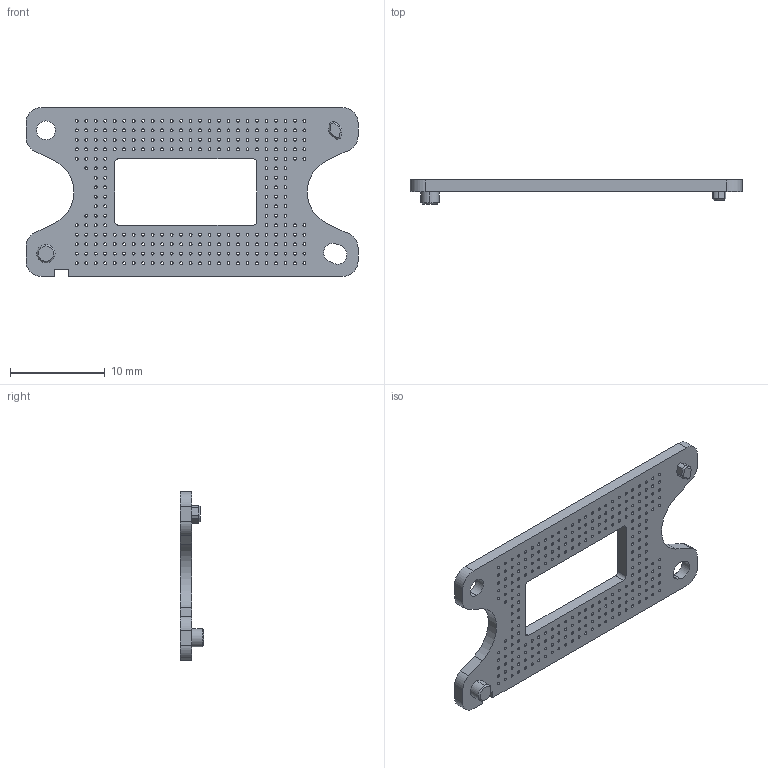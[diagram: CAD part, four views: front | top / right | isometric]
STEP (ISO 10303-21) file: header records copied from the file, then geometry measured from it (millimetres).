
FILE_DESCRIPTION (( 'STEP AP214' ), '1' );
FILE_NAME ('2515386.STEP', '2017-01-18T16:25:01', ( '' ), ( '' ), 'SwSTEP 2.0', 'SolidWorks 2013', '' );
FILE_SCHEMA (( 'AUTOMOTIVE_DESIGN' ));
Length unit declared in the file: millimetre
Products named in the file (1): 2515386
Bounding box: 35 x 2.52 x 17.8 mm (x, y, z)
Volume: 515.6 mm3; surface area: 1344 mm2
Topology: 1 solids, 1 shells, 570 faces, 1681 edges, 1115 vertices
Faces by surface type: cylinder 523, plane 38, cone 9
Entity records: 20674 total; most frequent: DIRECTION 3874, CARTESIAN_POINT 3379, ORIENTED_EDGE 3362, EDGE_CURVE 1681, AXIS2_PLACEMENT_3D 1626, VERTEX_POINT 1115, EDGE_LOOP 1078, CIRCLE 1055
